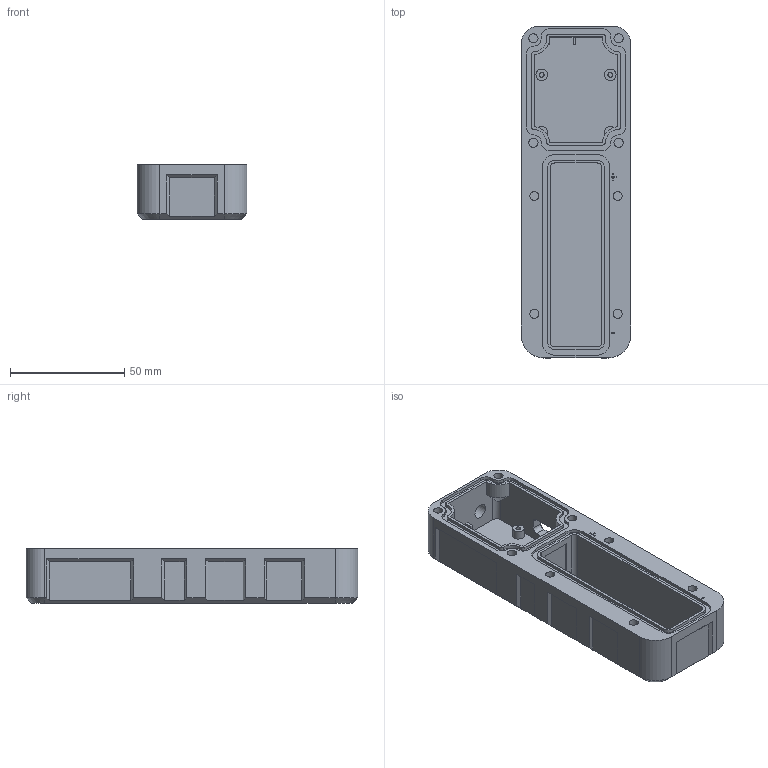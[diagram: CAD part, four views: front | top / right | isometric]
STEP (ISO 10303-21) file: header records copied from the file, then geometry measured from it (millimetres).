
FILE_DESCRIPTION(('Open CASCADE Model'),'2;1');
FILE_NAME('Open CASCADE Shape Model','2026-10-09T15:33:21',('Author'),( 'Open CASCADE'),'Open CASCADE STEP processor 7.9','Open CASCADE 7.9' ,'Unknown');
FILE_SCHEMA(('AUTOMOTIVE_DESIGN { 1 0 10303 214 1 1 1 1 }'));
Length unit declared in the file: millimetre
Products named in the file (1): Open CASCADE STEP translator 7.9 1
Bounding box: 48 x 145 x 24 mm (x, y, z)
Volume: 80981.2 mm3; surface area: 33440.4 mm2
Topology: 1 solids, 1 shells, 222 faces, 566 edges, 375 vertices
Faces by surface type: plane 137, cylinder 77, cone 8
Full cylindrical faces by diameter (mm): 2.1 x4, 3.2 x2, 4 x14, 5 x4, 6.6 x1
Entity records: 15171 total; most frequent: CARTESIAN_POINT 4153, DIRECTION 1964, ORIENTED_EDGE 1132, PCURVE 1132, DEFINITIONAL_REPRESENTATION 1132, LINE 1126, VECTOR 1126, EDGE_CURVE 566
